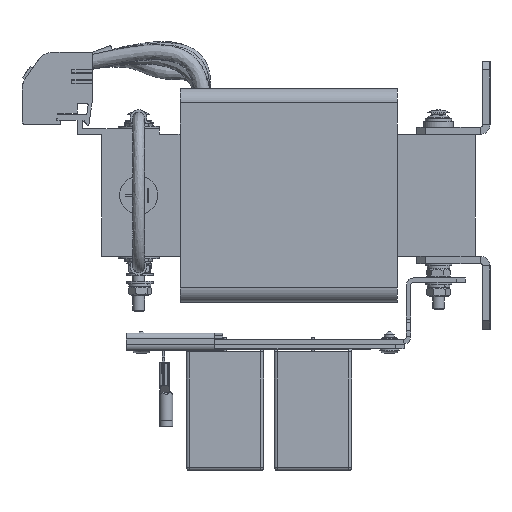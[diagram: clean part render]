
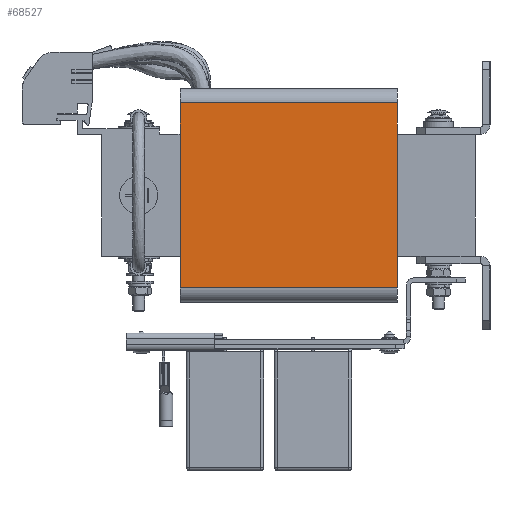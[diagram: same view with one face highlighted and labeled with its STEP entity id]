
A CAD part, left-side view. The second image highlights one B-rep face of the part: STEP entity #68527.
In plain terms, the highlighted planar face has unit normal (-1, 0, 0).
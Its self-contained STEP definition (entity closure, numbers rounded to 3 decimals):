
#3000=PLANE('',#74431);
#6640=FACE_OUTER_BOUND('',#10574,.T.);
#10574=EDGE_LOOP('',(#59996,#59997,#59998,#59999));
#14800=LINE('',#99289,#21367);
#19906=LINE('',#117412,#26473);
#19910=LINE('',#117419,#26477);
#19911=LINE('',#117421,#26478);
#21367=VECTOR('',#77815,10.);
#26473=VECTOR('',#91837,10.);
#26477=VECTOR('',#91847,10.);
#26478=VECTOR('',#91850,10.);
#28005=VERTEX_POINT('',#99286);
#28006=VERTEX_POINT('',#99288);
#32747=VERTEX_POINT('',#117409);
#32748=VERTEX_POINT('',#117411);
#34766=EDGE_CURVE('',#28005,#28006,#14800,.T.);
#41999=EDGE_CURVE('',#32747,#32748,#19906,.T.);
#42004=EDGE_CURVE('',#28006,#32747,#19910,.T.);
#42005=EDGE_CURVE('',#28005,#32748,#19911,.T.);
#59996=ORIENTED_EDGE('',*,*,#42004,.F.);
#59997=ORIENTED_EDGE('',*,*,#34766,.F.);
#59998=ORIENTED_EDGE('',*,*,#42005,.T.);
#59999=ORIENTED_EDGE('',*,*,#41999,.F.);
#68527=ADVANCED_FACE('',(#6640),#3000,.T.);
#74431=AXIS2_PLACEMENT_3D('',#117420,#91848,#91849);
#77815=DIRECTION('',(0.,0.,1.));
#91837=DIRECTION('',(0.,0.,-1.));
#91847=DIRECTION('',(0.,-1.,0.));
#91848=DIRECTION('center_axis',(-1.,0.,0.));
#91849=DIRECTION('ref_axis',(0.,0.,1.));
#91850=DIRECTION('',(0.,-1.,0.));
#99286=CARTESIAN_POINT('',(-74.5,37.,-31.5));
#99288=CARTESIAN_POINT('',(-74.5,37.,31.5));
#99289=CARTESIAN_POINT('',(-74.5,37.,31.5));
#117409=CARTESIAN_POINT('',(-74.5,-37.,31.5));
#117411=CARTESIAN_POINT('',(-74.5,-37.,-31.5));
#117412=CARTESIAN_POINT('',(-74.5,-37.,31.5));
#117419=CARTESIAN_POINT('',(-74.5,0.,31.5));
#117420=CARTESIAN_POINT('Origin',(-74.5,0.,-31.5));
#117421=CARTESIAN_POINT('',(-74.5,0.,-31.5));
